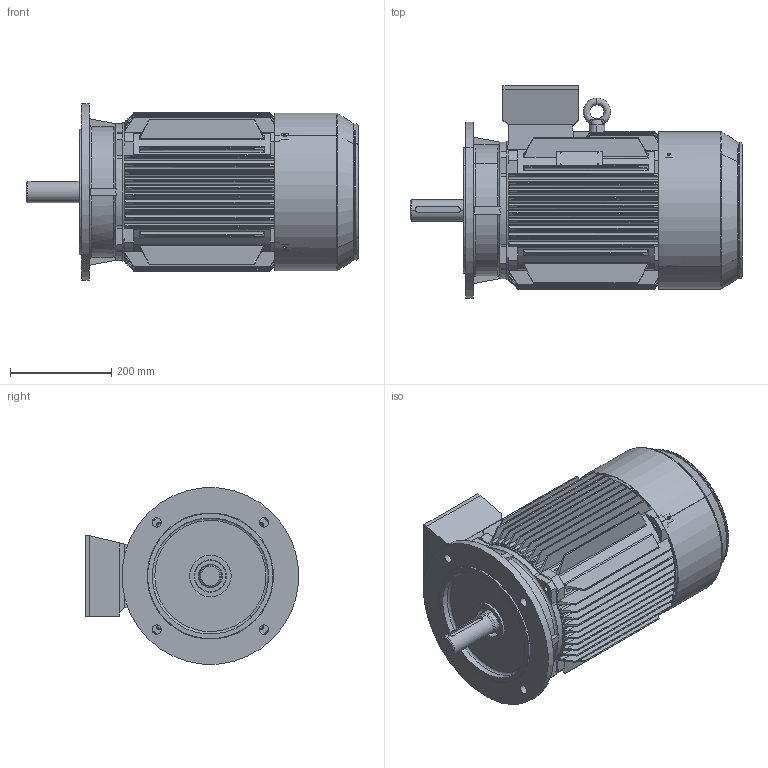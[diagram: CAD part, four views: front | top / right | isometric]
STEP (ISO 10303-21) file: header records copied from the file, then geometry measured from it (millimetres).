
FILE_DESCRIPTION (( 'STEP AP214' ), '1' );
FILE_NAME ('M3-160L-FF-B5.STEP', '2019-05-24T09:31:02', ( '' ), ( '' ), 'SwSTEP 2.0', 'SolidWorks 2012', '' );
FILE_SCHEMA (( 'AUTOMOTIVE_DESIGN' ));
Products named in the file (10): Y2-160_shaft; ﾀiﾍMN2-160_-ｼ+､; Y2-160-2ｦｾﾂ-ｩﾃ_-ｼ+､; Eyebolts GB_GB_FASTENER_SCREWS_FRS M12N; Y2-160L+ｷﾎｨ(B5)_-ｼ+､; Y2-160-4炫6炫8-ｦﾈﾁﾂ-ｩﾃ_-ｼ+､; ﾎｦ+ﾕY2-160､ｯｦ-ｼ+､; Y2-160､ｯｦｨ_-ｼ+､; Y2-160-180､ｯｦﾃ_-ｼ+､; M3-160L-FF-B5
Assembly tree (9 placements, depth 3):
  M3-160L-FF-B5
    ﾎｦ+ﾕY2-160､ｯｦ-ｼ+､
      Y2-160-180､ｯｦﾃ_-ｼ+､
      Y2-160､ｯｦｨ_-ｼ+､
    Y2-160-4炫6炫8-ｦﾈﾁﾂ-ｩﾃ_-ｼ+､
    Y2-160L+ｷﾎｨ(B5)_-ｼ+､
    Eyebolts GB_GB_FASTENER_SCREWS_FRS M12N
    Y2-160-2ｦｾﾂ-ｩﾃ_-ｼ+､
    ﾀiﾍMN2-160_-ｼ+､
    Y2-160_shaft
Bounding box: 657 x 421.33 x 348.67 mm (x, y, z)
Volume: 8870161.1 mm3; surface area: 2367659.8 mm2
Topology: 8 solids, 8 shells, 1251 faces, 3341 edges, 2114 vertices
Faces by surface type: cylinder 567, plane 377, bspline 245, cone 62
Entity records: 71282 total; most frequent: CARTESIAN_POINT 42872, ORIENTED_EDGE 6562, DIRECTION 4652, EDGE_CURVE 3281, VERTEX_POINT 2114, AXIS2_PLACEMENT_3D 1688, EDGE_LOOP 1429, B_SPLINE_CURVE_WITH_KNOTS 1293
